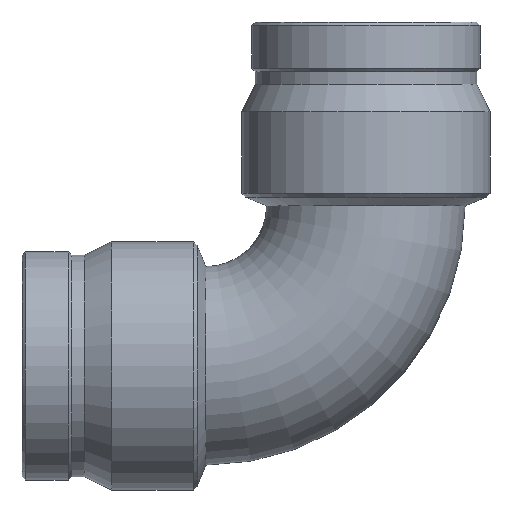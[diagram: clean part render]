
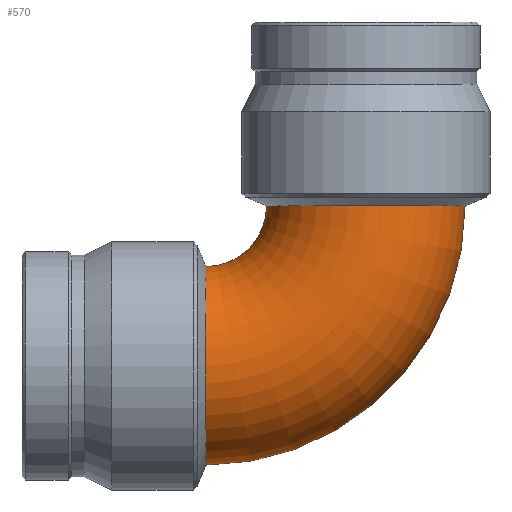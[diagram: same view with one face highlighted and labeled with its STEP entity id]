
A CAD part, front view. The second image highlights one B-rep face of the part: STEP entity #570.
In plain terms, the highlighted toroidal (fillet/blend) face has major radius 72.85 mm and minor radius 45.2 mm.
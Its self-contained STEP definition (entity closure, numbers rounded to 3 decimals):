
#130=FACE_OUTER_BOUND('',#172,.T.);
#172=EDGE_LOOP('',(#409,#410,#411,#412,#413,#414));
#228=CIRCLE('',#641,45.2);
#229=CIRCLE('',#642,45.2);
#230=CIRCLE('',#643,27.65);
#231=CIRCLE('',#644,45.2);
#232=CIRCLE('',#645,45.2);
#275=VERTEX_POINT('',#948);
#276=VERTEX_POINT('',#949);
#277=VERTEX_POINT('',#952);
#278=VERTEX_POINT('',#954);
#326=EDGE_CURVE('',#275,#276,#228,.T.);
#327=EDGE_CURVE('',#276,#275,#229,.T.);
#328=EDGE_CURVE('',#276,#277,#230,.T.);
#329=EDGE_CURVE('',#278,#277,#231,.T.);
#330=EDGE_CURVE('',#277,#278,#232,.T.);
#409=ORIENTED_EDGE('',*,*,#326,.F.);
#410=ORIENTED_EDGE('',*,*,#327,.F.);
#411=ORIENTED_EDGE('',*,*,#328,.T.);
#412=ORIENTED_EDGE('',*,*,#329,.F.);
#413=ORIENTED_EDGE('',*,*,#330,.F.);
#414=ORIENTED_EDGE('',*,*,#328,.F.);
#568=TOROIDAL_SURFACE('',#640,72.85,45.2);
#570=ADVANCED_FACE('',(#130),#568,.T.);
#640=AXIS2_PLACEMENT_3D('',#947,#738,#739);
#641=AXIS2_PLACEMENT_3D('',#950,#740,#741);
#642=AXIS2_PLACEMENT_3D('',#951,#742,#743);
#643=AXIS2_PLACEMENT_3D('',#953,#744,#745);
#644=AXIS2_PLACEMENT_3D('',#955,#746,#747);
#645=AXIS2_PLACEMENT_3D('',#956,#748,#749);
#738=DIRECTION('center_axis',(0.,-1.,0.));
#739=DIRECTION('ref_axis',(0.,0.,-1.));
#740=DIRECTION('center_axis',(0.,0.,
1.));
#741=DIRECTION('ref_axis',(0.,-1.,0.));
#742=DIRECTION('center_axis',(0.,0.,
1.));
#743=DIRECTION('ref_axis',(0.,-1.,0.));
#744=DIRECTION('center_axis',(0.,1.,0.));
#745=DIRECTION('ref_axis',(0.,0.,-1.));
#746=DIRECTION('center_axis',(-1.,0.,0.));
#747=DIRECTION('ref_axis',(0.,-1.,0.));
#748=DIRECTION('center_axis',(-1.,0.,0.));
#749=DIRECTION('ref_axis',(0.,-1.,0.));
#947=CARTESIAN_POINT('Origin',(-72.85,0.,72.85));
#948=CARTESIAN_POINT('',(0.,45.2,72.85));
#949=CARTESIAN_POINT('',(-45.2,0.,72.85));
#950=CARTESIAN_POINT('Origin',(0.,0.,
72.85));
#951=CARTESIAN_POINT('Origin',(0.,0.,
72.85));
#952=CARTESIAN_POINT('',(-72.85,0.,45.2));
#953=CARTESIAN_POINT('Origin',(-72.85,0.,72.85));
#954=CARTESIAN_POINT('',(-72.85,45.2,0.));
#955=CARTESIAN_POINT('Origin',(-72.85,0.,0.));
#956=CARTESIAN_POINT('Origin',(-72.85,0.,0.));
